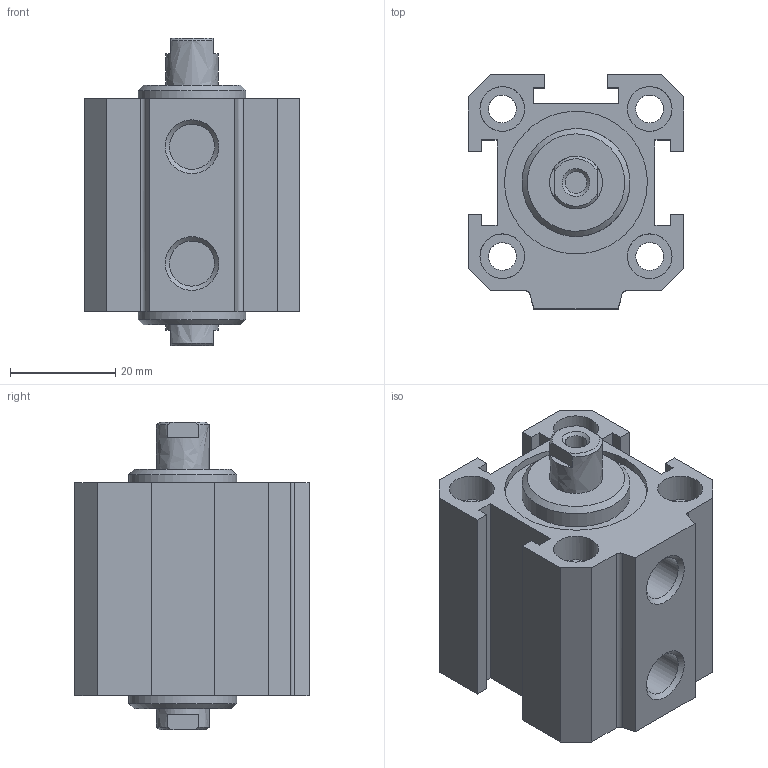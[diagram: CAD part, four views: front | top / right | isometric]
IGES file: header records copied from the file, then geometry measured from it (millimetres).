
Global section: file name: 1514_25_0005; native system: Autodesk Inventor 2014; preprocessor: unknown; author: A. Manieri; date: 20160824.111939; units: millimetre
Bounding box: 41 x 44.5 x 58.5 mm (x, y, z)
Volume: 52738.3 mm3; surface area: 22511.9 mm2
Topology: 2 solids, 2 shells, 106 faces, 280 edges, 198 vertices
Faces by surface type: bspline 106
